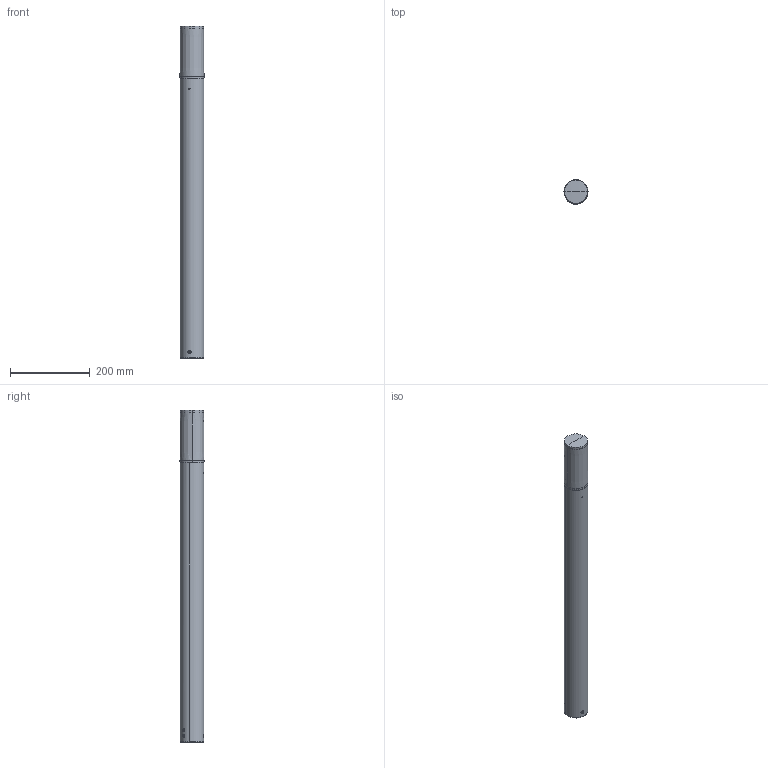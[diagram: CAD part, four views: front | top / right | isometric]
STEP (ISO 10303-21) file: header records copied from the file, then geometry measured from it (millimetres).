
FILE_DESCRIPTION((''),'2;1');
FILE_NAME('STIK-H700_SW0003','2025-05-26T15:58:54',('elena.baldelli'),(''),'CREO PARAMETRIC BY PTC INC, 2020354','CREO PARAMETRIC BY PTC INC, 2020354','');
FILE_SCHEMA(('CONFIG_CONTROL_DESIGN'));
Length unit declared in the file: millimetre
Products named in the file (1): STIK-H700_SW0003
Bounding box: 60.5 x 60.5 x 835 mm (x, y, z)
Surface area: 313211.9 mm2 (no closed solid volume)
Topology: 0 solids, 14 shells, 50 faces, 214 edges, 171 vertices
Faces by surface type: cylinder 18, cone 11, bspline 10, sphere 6, plane 5
Entity records: 3512 total; most frequent: CARTESIAN_POINT 1785, DIRECTION 346, ORIENTED_EDGE 281, EDGE_CURVE 212, VERTEX_POINT 171, AXIS2_PLACEMENT_3D 150, CIRCLE 110, EDGE_LOOP 78
